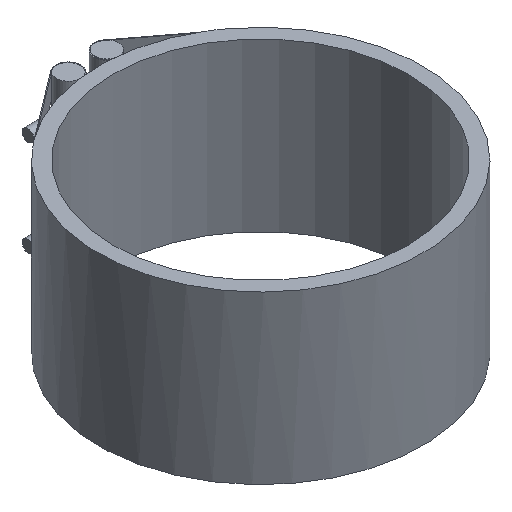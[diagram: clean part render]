
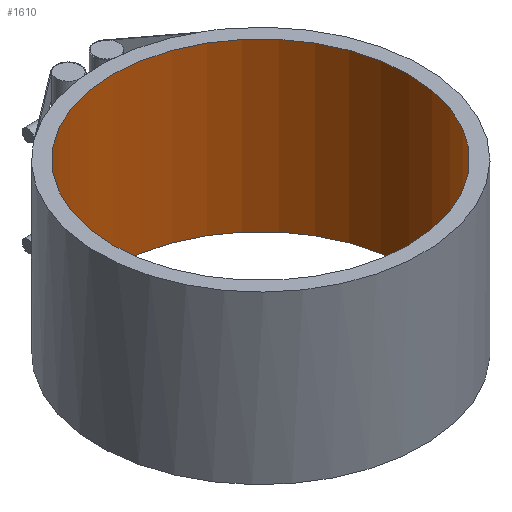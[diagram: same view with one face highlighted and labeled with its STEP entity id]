
A CAD part, isometric view. The second image highlights one B-rep face of the part: STEP entity #1610.
In plain terms, the highlighted cylindrical face has radius 125 mm (diameter 250 mm), a full revolution.
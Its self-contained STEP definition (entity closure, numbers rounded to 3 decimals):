
#364=CYLINDRICAL_SURFACE('',#1752,125.);
#418=FACE_BOUND('',#594,.T.);
#466=FACE_OUTER_BOUND('',#593,.T.);
#593=EDGE_LOOP('',(#1313));
#594=EDGE_LOOP('',(#1314));
#691=CIRCLE('',#1753,125.);
#692=CIRCLE('',#1754,125.);
#831=VERTEX_POINT('',#2856);
#832=VERTEX_POINT('',#2858);
#1007=EDGE_CURVE('',#831,#831,#691,.T.);
#1008=EDGE_CURVE('',#832,#832,#692,.T.);
#1313=ORIENTED_EDGE('',*,*,#1007,.F.);
#1314=ORIENTED_EDGE('',*,*,#1008,.F.);
#1610=ADVANCED_FACE('',(#466,#418),#364,.F.);
#1752=AXIS2_PLACEMENT_3D('',#2855,#2089,#2090);
#1753=AXIS2_PLACEMENT_3D('',#2857,#2091,#2092);
#1754=AXIS2_PLACEMENT_3D('',#2859,#2093,#2094);
#2089=DIRECTION('center_axis',(0.,0.,1.));
#2090=DIRECTION('ref_axis',(-1.,0.,0.));
#2091=DIRECTION('center_axis',(0.,0.,1.));
#2092=DIRECTION('ref_axis',(-1.,0.,0.));
#2093=DIRECTION('center_axis',(0.,0.,-1.));
#2094=DIRECTION('ref_axis',(-1.,0.,0.));
#2855=CARTESIAN_POINT('Origin',(0.,0.,0.));
#2856=CARTESIAN_POINT('',(125.,0.,-70.5));
#2857=CARTESIAN_POINT('Origin',(0.,0.,-70.5));
#2858=CARTESIAN_POINT('',(125.,0.,70.5));
#2859=CARTESIAN_POINT('Origin',(0.,0.,70.5));
